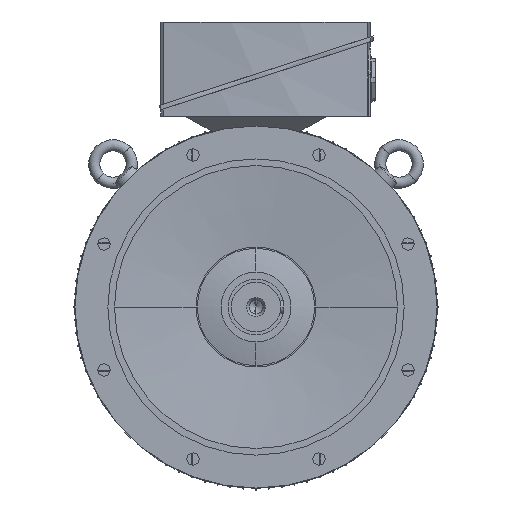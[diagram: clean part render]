
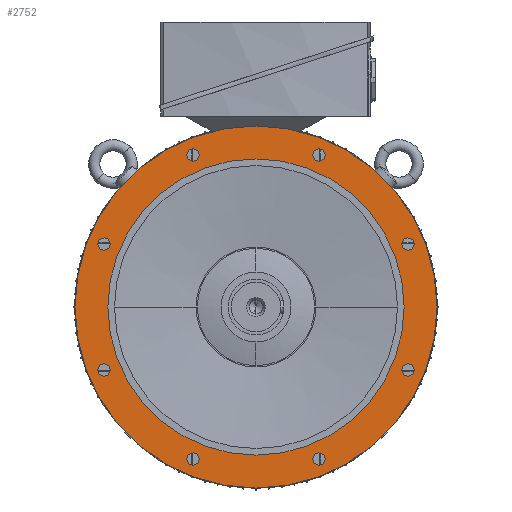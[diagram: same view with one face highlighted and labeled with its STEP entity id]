
A CAD part, left-side view. The second image highlights one B-rep face of the part: STEP entity #2752.
In plain terms, the highlighted planar face has unit normal (-1, 0, 0).
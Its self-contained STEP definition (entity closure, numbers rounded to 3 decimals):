
#2752=ADVANCED_FACE('',(#6046,#6047,#6048,#6049,#6050,#6051,#6052,#6053,#6054,#6055),#6056,.T.);
#6046=FACE_BOUND('',#9870,.T.);
#6047=FACE_BOUND('',#9871,.T.);
#6048=FACE_BOUND('',#9872,.T.);
#6049=FACE_BOUND('',#9873,.T.);
#6050=FACE_BOUND('',#9874,.T.);
#6051=FACE_BOUND('',#9875,.T.);
#6052=FACE_BOUND('',#9876,.T.);
#6053=FACE_BOUND('',#9877,.T.);
#6054=FACE_OUTER_BOUND('',#9878,.T.);
#6055=FACE_BOUND('',#9879,.T.);
#6056=PLANE('',#9880);
#9870=EDGE_LOOP('',(#17946,#17947));
#9871=EDGE_LOOP('',(#17948,#17949));
#9872=EDGE_LOOP('',(#17950,#17951));
#9873=EDGE_LOOP('',(#17952,#17953));
#9874=EDGE_LOOP('',(#17954,#17955));
#9875=EDGE_LOOP('',(#17956,#17957));
#9876=EDGE_LOOP('',(#17958,#17959));
#9877=EDGE_LOOP('',(#17960,#17961));
#9878=EDGE_LOOP('',(#17962,#17963));
#9879=EDGE_LOOP('',(#17964,#17965));
#9880=AXIS2_PLACEMENT_3D('',#17966,#17967,#17968);
#17946=ORIENTED_EDGE('',*,*,#26132,.T.);
#17947=ORIENTED_EDGE('',*,*,#23331,.T.);
#17948=ORIENTED_EDGE('',*,*,#26133,.T.);
#17949=ORIENTED_EDGE('',*,*,#23336,.T.);
#17950=ORIENTED_EDGE('',*,*,#26134,.T.);
#17951=ORIENTED_EDGE('',*,*,#23341,.T.);
#17952=ORIENTED_EDGE('',*,*,#26135,.T.);
#17953=ORIENTED_EDGE('',*,*,#23346,.T.);
#17954=ORIENTED_EDGE('',*,*,#26136,.T.);
#17955=ORIENTED_EDGE('',*,*,#23351,.T.);
#17956=ORIENTED_EDGE('',*,*,#26137,.T.);
#17957=ORIENTED_EDGE('',*,*,#23356,.T.);
#17958=ORIENTED_EDGE('',*,*,#26138,.T.);
#17959=ORIENTED_EDGE('',*,*,#23361,.T.);
#17960=ORIENTED_EDGE('',*,*,#26139,.T.);
#17961=ORIENTED_EDGE('',*,*,#23366,.T.);
#17962=ORIENTED_EDGE('',*,*,#23371,.F.);
#17963=ORIENTED_EDGE('',*,*,#26140,.F.);
#17964=ORIENTED_EDGE('',*,*,#23445,.T.);
#17965=ORIENTED_EDGE('',*,*,#24913,.T.);
#17966=CARTESIAN_POINT('',(-100.0,250.0,0.0));
#17967=DIRECTION('',(-1.0,0.0,0.0));
#17968=DIRECTION('',(0.0,-1.0,0.0));
#23331=EDGE_CURVE('',#28086,#28083,#28087,.T.);
#23336=EDGE_CURVE('',#28095,#28092,#28096,.T.);
#23341=EDGE_CURVE('',#28104,#28101,#28105,.T.);
#23346=EDGE_CURVE('',#28113,#28110,#28114,.T.);
#23351=EDGE_CURVE('',#28122,#28119,#28123,.T.);
#23356=EDGE_CURVE('',#28131,#28128,#28132,.T.);
#23361=EDGE_CURVE('',#28140,#28137,#28141,.T.);
#23366=EDGE_CURVE('',#28149,#28146,#28150,.T.);
#23371=EDGE_CURVE('',#28155,#28158,#28159,.T.);
#23445=EDGE_CURVE('',#28285,#28289,#28291,.T.);
#24913=EDGE_CURVE('',#28289,#28285,#30478,.T.);
#26132=EDGE_CURVE('',#28083,#28086,#32389,.T.);
#26133=EDGE_CURVE('',#28092,#28095,#32390,.T.);
#26134=EDGE_CURVE('',#28101,#28104,#32391,.T.);
#26135=EDGE_CURVE('',#28110,#28113,#32392,.T.);
#26136=EDGE_CURVE('',#28119,#28122,#32393,.T.);
#26137=EDGE_CURVE('',#28128,#28131,#32394,.T.);
#26138=EDGE_CURVE('',#28137,#28140,#32395,.T.);
#26139=EDGE_CURVE('',#28146,#28149,#32396,.T.);
#26140=EDGE_CURVE('',#28158,#28155,#32397,.T.);
#28083=VERTEX_POINT('',#35401);
#28086=VERTEX_POINT('',#35405);
#28087=CIRCLE('',#35406,9.25);
#28092=VERTEX_POINT('',#35412);
#28095=VERTEX_POINT('',#35416);
#28096=CIRCLE('',#35417,9.25);
#28101=VERTEX_POINT('',#35423);
#28104=VERTEX_POINT('',#35427);
#28105=CIRCLE('',#35428,9.25);
#28110=VERTEX_POINT('',#35434);
#28113=VERTEX_POINT('',#35438);
#28114=CIRCLE('',#35439,9.25);
#28119=VERTEX_POINT('',#35445);
#28122=VERTEX_POINT('',#35449);
#28123=CIRCLE('',#35450,9.25);
#28128=VERTEX_POINT('',#35456);
#28131=VERTEX_POINT('',#35460);
#28132=CIRCLE('',#35461,9.25);
#28137=VERTEX_POINT('',#35467);
#28140=VERTEX_POINT('',#35471);
#28141=CIRCLE('',#35472,9.25);
#28146=VERTEX_POINT('',#35478);
#28149=VERTEX_POINT('',#35482);
#28150=CIRCLE('',#35483,9.25);
#28155=VERTEX_POINT('',#35489);
#28158=VERTEX_POINT('',#35493);
#28159=CIRCLE('',#35494,275.0);
#28285=VERTEX_POINT('',#36106);
#28289=VERTEX_POINT('',#36111);
#28291=CIRCLE('',#36114,225.0);
#30478=CIRCLE('',#40119,225.0);
#32389=CIRCLE('',#48789,9.25);
#32390=CIRCLE('',#48790,9.25);
#32391=CIRCLE('',#48791,9.25);
#32392=CIRCLE('',#48792,9.25);
#32393=CIRCLE('',#48793,9.25);
#32394=CIRCLE('',#48794,9.25);
#32395=CIRCLE('',#48795,9.25);
#32396=CIRCLE('',#48796,9.25);
#32397=CIRCLE('',#48797,275.0);
#35401=CARTESIAN_POINT('',(-100.0,-239.516,99.211));
#35405=CARTESIAN_POINT('',(-100.0,-222.424,92.131));
#35406=AXIS2_PLACEMENT_3D('',#57929,#57930,#57931);
#35412=CARTESIAN_POINT('',(-100.0,-239.516,-99.211));
#35416=CARTESIAN_POINT('',(-100.0,-222.424,-92.131));
#35417=AXIS2_PLACEMENT_3D('',#57937,#57938,#57939);
#35423=CARTESIAN_POINT('',(-100.0,-99.211,-239.516));
#35427=CARTESIAN_POINT('',(-100.0,-92.131,-222.424));
#35428=AXIS2_PLACEMENT_3D('',#57945,#57946,#57947);
#35434=CARTESIAN_POINT('',(-100.0,99.211,-239.516));
#35438=CARTESIAN_POINT('',(-100.0,92.131,-222.424));
#35439=AXIS2_PLACEMENT_3D('',#57953,#57954,#57955);
#35445=CARTESIAN_POINT('',(-100.0,239.516,-99.211));
#35449=CARTESIAN_POINT('',(-100.0,222.424,-92.131));
#35450=AXIS2_PLACEMENT_3D('',#57961,#57962,#57963);
#35456=CARTESIAN_POINT('',(-100.0,239.516,99.211));
#35460=CARTESIAN_POINT('',(-100.0,222.424,92.131));
#35461=AXIS2_PLACEMENT_3D('',#57969,#57970,#57971);
#35467=CARTESIAN_POINT('',(-100.0,99.211,239.516));
#35471=CARTESIAN_POINT('',(-100.0,92.131,222.424));
#35472=AXIS2_PLACEMENT_3D('',#57977,#57978,#57979);
#35478=CARTESIAN_POINT('',(-100.0,-99.211,239.516));
#35482=CARTESIAN_POINT('',(-100.0,-92.131,222.424));
#35483=AXIS2_PLACEMENT_3D('',#57985,#57986,#57987);
#35489=CARTESIAN_POINT('',(-100.0,275.0,0.0));
#35493=CARTESIAN_POINT('',(-100.0,-275.0,0.));
#35494=AXIS2_PLACEMENT_3D('',#57993,#57994,#57995);
#36106=CARTESIAN_POINT('',(-100.0,225.0,0.0));
#36111=CARTESIAN_POINT('',(-100.0,-225.0,0.));
#36114=AXIS2_PLACEMENT_3D('',#58079,#58080,#58081);
#40119=AXIS2_PLACEMENT_3D('',#59633,#59634,#59635);
#48789=AXIS2_PLACEMENT_3D('',#60438,#60439,#60440);
#48790=AXIS2_PLACEMENT_3D('',#60441,#60442,#60443);
#48791=AXIS2_PLACEMENT_3D('',#60444,#60445,#60446);
#48792=AXIS2_PLACEMENT_3D('',#60447,#60448,#60449);
#48793=AXIS2_PLACEMENT_3D('',#60450,#60451,#60452);
#48794=AXIS2_PLACEMENT_3D('',#60453,#60454,#60455);
#48795=AXIS2_PLACEMENT_3D('',#60456,#60457,#60458);
#48796=AXIS2_PLACEMENT_3D('',#60459,#60460,#60461);
#48797=AXIS2_PLACEMENT_3D('',#60462,#60463,#60464);
#57929=CARTESIAN_POINT('',(-100.0,-230.97,95.671));
#57930=DIRECTION('',(1.0,0.0,-0.0));
#57931=DIRECTION('',(0.0,-0.924,0.383));
#57937=CARTESIAN_POINT('',(-100.0,-230.97,-95.671));
#57938=DIRECTION('',(1.0,0.0,0.0));
#57939=DIRECTION('',(0.0,-0.924,-0.383));
#57945=CARTESIAN_POINT('',(-100.0,-95.671,-230.97));
#57946=DIRECTION('',(1.0,0.0,0.0));
#57947=DIRECTION('',(0.0,-0.383,-0.924));
#57953=CARTESIAN_POINT('',(-100.0,95.671,-230.97));
#57954=DIRECTION('',(1.0,-0.0,0.0));
#57955=DIRECTION('',(0.0,0.383,-0.924));
#57961=CARTESIAN_POINT('',(-100.0,230.97,-95.671));
#57962=DIRECTION('',(1.0,-0.0,0.0));
#57963=DIRECTION('',(0.0,0.924,-0.383));
#57969=CARTESIAN_POINT('',(-100.0,230.97,95.671));
#57970=DIRECTION('',(1.0,0.0,-0.0));
#57971=DIRECTION('',(0.0,0.924,0.383));
#57977=CARTESIAN_POINT('',(-100.0,95.671,230.97));
#57978=DIRECTION('',(1.0,0.0,-0.0));
#57979=DIRECTION('',(0.0,0.383,0.924));
#57985=CARTESIAN_POINT('',(-100.0,-95.671,230.97));
#57986=DIRECTION('',(1.0,0.0,-0.0));
#57987=DIRECTION('',(0.0,-0.383,0.924));
#57993=CARTESIAN_POINT('',(-100.0,0.0,0.0));
#57994=DIRECTION('',(1.0,0.0,0.0));
#57995=DIRECTION('',(0.0,1.0,0.0));
#58079=CARTESIAN_POINT('',(-100.0,0.0,0.0));
#58080=DIRECTION('',(1.0,0.0,0.0));
#58081=DIRECTION('',(0.0,1.0,0.0));
#59633=CARTESIAN_POINT('',(-100.0,0.0,0.0));
#59634=DIRECTION('',(1.0,0.0,0.0));
#59635=DIRECTION('',(0.0,1.0,0.0));
#60438=CARTESIAN_POINT('',(-100.0,-230.97,95.671));
#60439=DIRECTION('',(1.0,0.0,-0.0));
#60440=DIRECTION('',(0.0,-0.924,0.383));
#60441=CARTESIAN_POINT('',(-100.0,-230.97,-95.671));
#60442=DIRECTION('',(1.0,0.0,0.0));
#60443=DIRECTION('',(0.0,-0.924,-0.383));
#60444=CARTESIAN_POINT('',(-100.0,-95.671,-230.97));
#60445=DIRECTION('',(1.0,0.0,0.0));
#60446=DIRECTION('',(0.0,-0.383,-0.924));
#60447=CARTESIAN_POINT('',(-100.0,95.671,-230.97));
#60448=DIRECTION('',(1.0,-0.0,0.0));
#60449=DIRECTION('',(0.0,0.383,-0.924));
#60450=CARTESIAN_POINT('',(-100.0,230.97,-95.671));
#60451=DIRECTION('',(1.0,-0.0,0.0));
#60452=DIRECTION('',(0.0,0.924,-0.383));
#60453=CARTESIAN_POINT('',(-100.0,230.97,95.671));
#60454=DIRECTION('',(1.0,0.0,-0.0));
#60455=DIRECTION('',(0.0,0.924,0.383));
#60456=CARTESIAN_POINT('',(-100.0,95.671,230.97));
#60457=DIRECTION('',(1.0,0.0,-0.0));
#60458=DIRECTION('',(0.0,0.383,0.924));
#60459=CARTESIAN_POINT('',(-100.0,-95.671,230.97));
#60460=DIRECTION('',(1.0,0.0,-0.0));
#60461=DIRECTION('',(0.0,-0.383,0.924));
#60462=CARTESIAN_POINT('',(-100.0,0.0,0.0));
#60463=DIRECTION('',(1.0,0.0,0.0));
#60464=DIRECTION('',(0.0,1.0,0.0));
